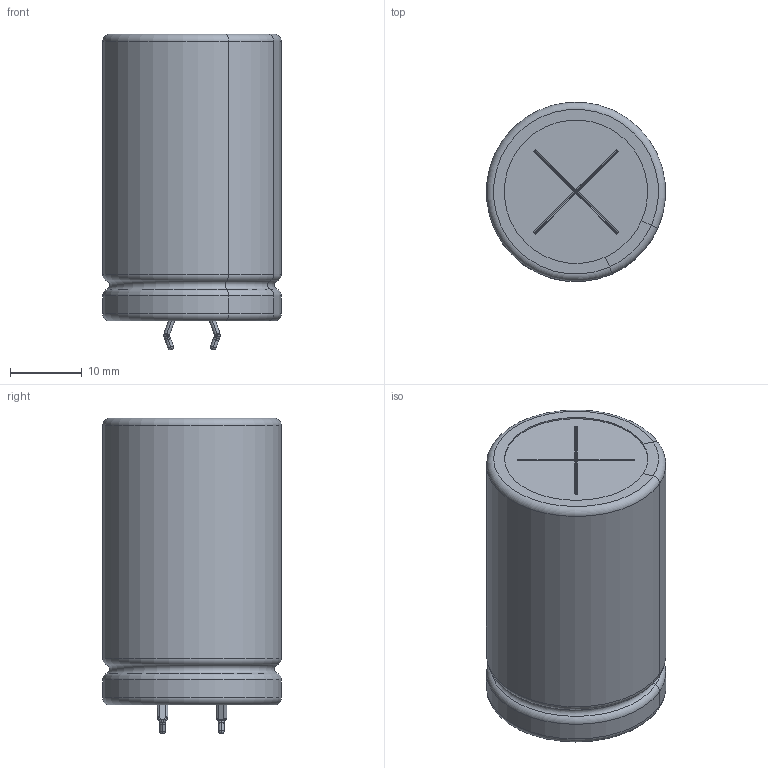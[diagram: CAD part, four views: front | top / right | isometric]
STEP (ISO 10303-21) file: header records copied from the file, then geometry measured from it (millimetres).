
FILE_DESCRIPTION(/* description */ (''),/* implementation_level */ '2;1');
FILE_NAME(/* name */ '25x40_Snap.stp',/* time_stamp */ '2017-09-11T14:55:38+09:00',/* author */ (''),/* organization */ (''),/* preprocessor_version */ 'ST-DEVELOPER v16',/* originating_system */ 'SIEMENS PLM Software NX 11.0',/* authorisation */ '');
FILE_SCHEMA (('AUTOMOTIVE_DESIGN { 1 0 10303 214 3 1 1 1 }'));
Length unit declared in the file: millimetre
Products named in the file (1): 25x40_Snap_0
Bounding box: 24.93 x 24.93 x 44.02 mm (x, y, z)
Volume: 19384.9 mm3; surface area: 11107.2 mm2
Topology: 5 solids, 5 shells, 208 faces, 523 edges, 310 vertices
Faces by surface type: cylinder 76, plane 75, torus 25, sphere 20, bspline 12
Full cylindrical faces by diameter (mm): 4 x2, 24.6 x2
Entity records: 6789 total; most frequent: CARTESIAN_POINT 1265, DIRECTION 1128, ORIENTED_EDGE 988, EDGE_CURVE 494, AXIS2_PLACEMENT_3D 437, VERTEX_POINT 310, LINE 254, VECTOR 254
